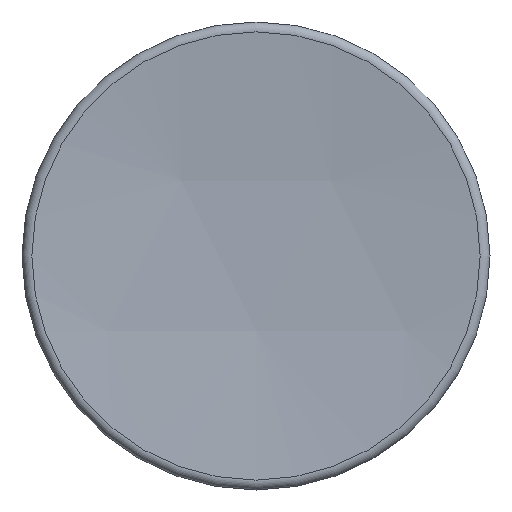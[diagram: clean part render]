
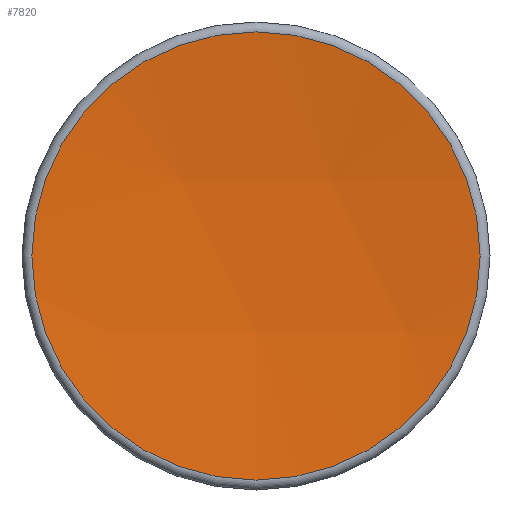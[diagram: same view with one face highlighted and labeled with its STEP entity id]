
A CAD part, front view. The second image highlights one B-rep face of the part: STEP entity #7820.
In plain terms, the highlighted spherical face has radius 600 mm.
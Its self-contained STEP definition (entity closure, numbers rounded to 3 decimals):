
#19=SPHERICAL_SURFACE('',#8861,600.);
#1014=CIRCLE('',#8858,76.617);
#1015=CIRCLE('',#8859,76.617);
#1579=FACE_OUTER_BOUND('',#2118,.T.);
#2118=EDGE_LOOP('',(#6814,#6815));
#3548=VERTEX_POINT('',#16269);
#3549=VERTEX_POINT('',#16270);
#4637=EDGE_CURVE('',#3548,#3549,#1014,.T.);
#4638=EDGE_CURVE('',#3549,#3548,#1015,.T.);
#6814=ORIENTED_EDGE('',*,*,#4637,.T.);
#6815=ORIENTED_EDGE('',*,*,#4638,.T.);
#7820=ADVANCED_FACE('',(#1579),#19,.F.);
#8858=AXIS2_PLACEMENT_3D('',#16271,#11174,#11175);
#8859=AXIS2_PLACEMENT_3D('',#16272,#11176,#11177);
#8861=AXIS2_PLACEMENT_3D('',#16274,#11180,#11181);
#11174=DIRECTION('center_axis',(0.,-1.,0.));
#11175=DIRECTION('ref_axis',(-1.,0.,0.));
#11176=DIRECTION('center_axis',(0.,-1.,0.));
#11177=DIRECTION('ref_axis',(-1.,0.,0.));
#11180=DIRECTION('center_axis',(0.,0.,
1.));
#11181=DIRECTION('ref_axis',(-1.,0.,0.));
#16269=CARTESIAN_POINT('',(0.,-255.625,76.617));
#16270=CARTESIAN_POINT('',(0.,-255.625,-76.617));
#16271=CARTESIAN_POINT('Origin',(0.,-255.625,
0.));
#16272=CARTESIAN_POINT('Origin',(0.,-255.625,
0.));
#16274=CARTESIAN_POINT('Origin',(0.,-850.713,
0.));
